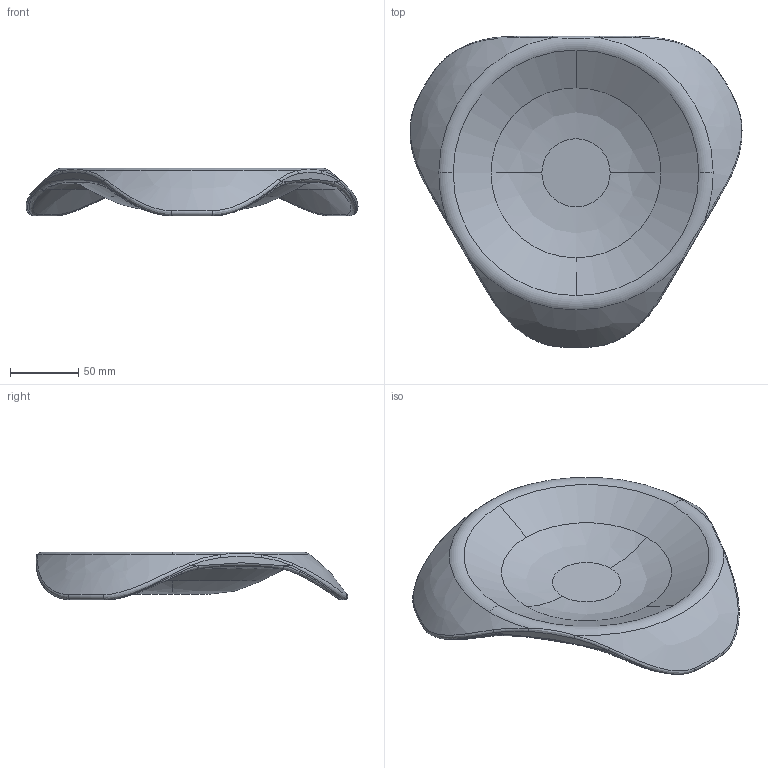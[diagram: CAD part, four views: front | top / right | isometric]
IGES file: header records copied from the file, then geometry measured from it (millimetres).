
Global section: file name: No Iges File Name specified; native system: Autodesk Inventor 2010; preprocessor: AutoDesk Inventor Iges Exporter R2010; author: DARENAM; date: 20130124.133246; units: millimetre
Bounding box: 243.27 x 228.06 x 35 mm (x, y, z)
Volume: 311212.6 mm3; surface area: 97768.7 mm2
Topology: 1 solids, 1 shells, 71 faces, 172 edges, 104 vertices
Faces by surface type: bspline 44, plane 9, torus 8, cylinder 6, revolution 2, cone 2
